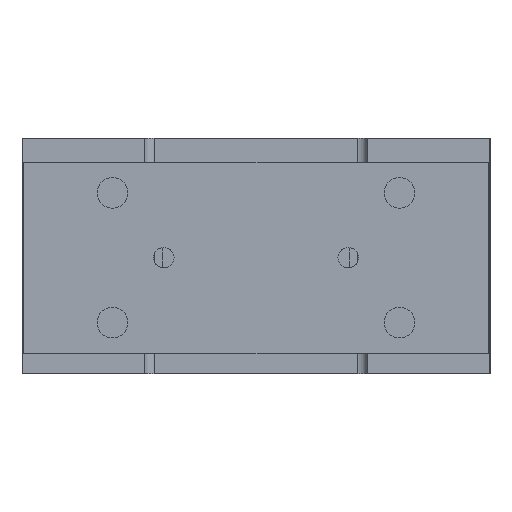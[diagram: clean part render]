
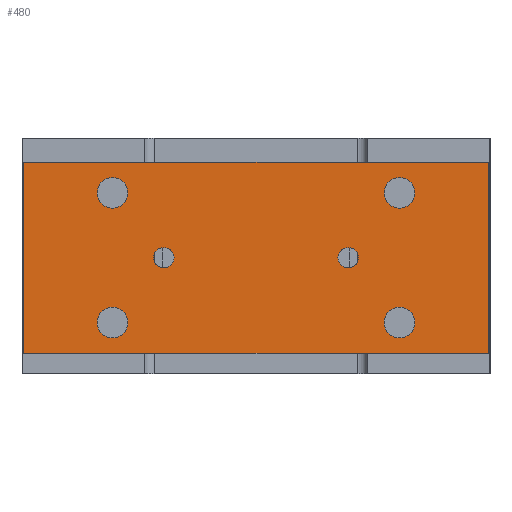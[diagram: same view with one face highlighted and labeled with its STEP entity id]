
A CAD part, left-side view. The second image highlights one B-rep face of the part: STEP entity #480.
In plain terms, the highlighted planar face has unit normal (-1, 0, 0).
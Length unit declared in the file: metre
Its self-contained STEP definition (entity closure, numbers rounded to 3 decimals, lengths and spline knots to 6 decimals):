
#480 = ADVANCED_FACE( '', ( #1138, #1139, #1140, #1141, #1142, #1143, #1144 ), #1145, .T. );
#1138 = FACE_BOUND( '', #1994, .T. );
#1139 = FACE_BOUND( '', #1995, .T. );
#1140 = FACE_BOUND( '', #1996, .T. );
#1141 = FACE_BOUND( '', #1997, .T. );
#1142 = FACE_BOUND( '', #1998, .T. );
#1143 = FACE_BOUND( '', #1999, .T. );
#1144 = FACE_OUTER_BOUND( '', #2000, .T. );
#1145 = PLANE( '', #2001 );
#1994 = EDGE_LOOP( '', ( #3214 ) );
#1995 = EDGE_LOOP( '', ( #3215 ) );
#1996 = EDGE_LOOP( '', ( #3216 ) );
#1997 = EDGE_LOOP( '', ( #3217 ) );
#1998 = EDGE_LOOP( '', ( #3218 ) );
#1999 = EDGE_LOOP( '', ( #3219 ) );
#2000 = EDGE_LOOP( '', ( #3220, #3221, #3222, #3223 ) );
#2001 = AXIS2_PLACEMENT_3D( '', #3224, #3225, #3226 );
#3214 = ORIENTED_EDGE( '', *, *, #4413, .F. );
#3215 = ORIENTED_EDGE( '', *, *, #4414, .F. );
#3216 = ORIENTED_EDGE( '', *, *, #4415, .F. );
#3217 = ORIENTED_EDGE( '', *, *, #4075, .F. );
#3218 = ORIENTED_EDGE( '', *, *, #4416, .F. );
#3219 = ORIENTED_EDGE( '', *, *, #4417, .T. );
#3220 = ORIENTED_EDGE( '', *, *, #4418, .T. );
#3221 = ORIENTED_EDGE( '', *, *, #4337, .T. );
#3222 = ORIENTED_EDGE( '', *, *, #4419, .T. );
#3223 = ORIENTED_EDGE( '', *, *, #4420, .T. );
#3224 = CARTESIAN_POINT( '', ( -0.1025, -0.068, -0.007 ) );
#3225 = DIRECTION( '', ( -1., 0., 0. ) );
#3226 = DIRECTION( '', ( 0., 0., 1. ) );
#4075 = EDGE_CURVE( '', #4687, #4687, #4688, .T. );
#4337 = EDGE_CURVE( '', #5114, #5112, #5115, .T. );
#4413 = EDGE_CURVE( '', #5220, #5220, #5221, .T. );
#4414 = EDGE_CURVE( '', #5222, #5222, #5223, .T. );
#4415 = EDGE_CURVE( '', #5224, #5224, #5225, .T. );
#4416 = EDGE_CURVE( '', #5226, #5226, #5227, .T. );
#4417 = EDGE_CURVE( '', #5228, #5228, #5229, .T. );
#4418 = EDGE_CURVE( '', #5230, #5114, #5231, .T. );
#4419 = EDGE_CURVE( '', #5112, #5232, #5233, .T. );
#4420 = EDGE_CURVE( '', #5232, #5230, #5234, .T. );
#4687 = VERTEX_POINT( '', #5601 );
#4688 = CIRCLE( '', #5602, 0.0045 );
#5112 = VERTEX_POINT( '', #6271 );
#5114 = VERTEX_POINT( '', #6274 );
#5115 = LINE( '', #6275, #6276 );
#5220 = VERTEX_POINT( '', #6465 );
#5221 = CIRCLE( '', #6466, 0.0045 );
#5222 = VERTEX_POINT( '', #6467 );
#5223 = CIRCLE( '', #6468, 0.0045 );
#5224 = VERTEX_POINT( '', #6469 );
#5225 = CIRCLE( '', #6470, 0.0045 );
#5226 = VERTEX_POINT( '', #6471 );
#5227 = CIRCLE( '', #6472, 0.003 );
#5228 = VERTEX_POINT( '', #6473 );
#5229 = CIRCLE( '', #6474, 0.003 );
#5230 = VERTEX_POINT( '', #6475 );
#5231 = LINE( '', #6476, #6477 );
#5232 = VERTEX_POINT( '', #6478 );
#5233 = LINE( '', #6479, #6480 );
#5234 = LINE( '', #6481, #6482 );
#5601 = CARTESIAN_POINT( '', ( -0.1025, 0.0375, -0.016 ) );
#5602 = AXIS2_PLACEMENT_3D( '', #6894, #6895, #6896 );
#6271 = CARTESIAN_POINT( '', ( -0.1025, 0.068, -0.007 ) );
#6274 = CARTESIAN_POINT( '', ( -0.1025, -0.068, -0.007 ) );
#6275 = CARTESIAN_POINT( '', ( -0.1025, -0.068, -0.007 ) );
#6276 = VECTOR( '', #7212, 1. );
#6465 = CARTESIAN_POINT( '', ( -0.1025, -0.0465, -0.054 ) );
#6466 = AXIS2_PLACEMENT_3D( '', #7300, #7301, #7302 );
#6467 = CARTESIAN_POINT( '', ( -0.1025, 0.0375, -0.054 ) );
#6468 = AXIS2_PLACEMENT_3D( '', #7303, #7304, #7305 );
#6469 = CARTESIAN_POINT( '', ( -0.1025, -0.0465, -0.016 ) );
#6470 = AXIS2_PLACEMENT_3D( '', #7306, #7307, #7308 );
#6471 = CARTESIAN_POINT( '', ( -0.1025, -0.024, -0.035 ) );
#6472 = AXIS2_PLACEMENT_3D( '', #7309, #7310, #7311 );
#6473 = CARTESIAN_POINT( '', ( -0.1025, 0.024, -0.035 ) );
#6474 = AXIS2_PLACEMENT_3D( '', #7312, #7313, #7314 );
#6475 = CARTESIAN_POINT( '', ( -0.1025, -0.068, -0.063 ) );
#6476 = CARTESIAN_POINT( '', ( -0.1025, -0.068, -0.063 ) );
#6477 = VECTOR( '', #7315, 1. );
#6478 = CARTESIAN_POINT( '', ( -0.1025, 0.068, -0.063 ) );
#6479 = CARTESIAN_POINT( '', ( -0.1025, 0.068, -0.007 ) );
#6480 = VECTOR( '', #7316, 1. );
#6481 = CARTESIAN_POINT( '', ( -0.1025, 0.068, -0.063 ) );
#6482 = VECTOR( '', #7317, 1. );
#6894 = CARTESIAN_POINT( '', ( -0.1025, 0.042, -0.016 ) );
#6895 = DIRECTION( '', ( -1., 0., 0. ) );
#6896 = DIRECTION( '', ( 0., -1., 0. ) );
#7212 = DIRECTION( '', ( 0., 1., 0. ) );
#7300 = CARTESIAN_POINT( '', ( -0.1025, -0.042, -0.054 ) );
#7301 = DIRECTION( '', ( -1., 0., 0. ) );
#7302 = DIRECTION( '', ( 0., -1., 0. ) );
#7303 = CARTESIAN_POINT( '', ( -0.1025, 0.042, -0.054 ) );
#7304 = DIRECTION( '', ( -1., 0., 0. ) );
#7305 = DIRECTION( '', ( 0., -1., 0. ) );
#7306 = CARTESIAN_POINT( '', ( -0.1025, -0.042, -0.016 ) );
#7307 = DIRECTION( '', ( -1., 0., 0. ) );
#7308 = DIRECTION( '', ( 0., -1., 0. ) );
#7309 = CARTESIAN_POINT( '', ( -0.1025, -0.027, -0.035 ) );
#7310 = DIRECTION( '', ( -1., 0., 0. ) );
#7311 = DIRECTION( '', ( 0., 1., 0. ) );
#7312 = CARTESIAN_POINT( '', ( -0.1025, 0.027, -0.035 ) );
#7313 = DIRECTION( '', ( 1., 0., 0. ) );
#7314 = DIRECTION( '', ( 0., -1., 0. ) );
#7315 = DIRECTION( '', ( 0., 0., 1. ) );
#7316 = DIRECTION( '', ( 0., 0., -1. ) );
#7317 = DIRECTION( '', ( 0., -1., 0. ) );
